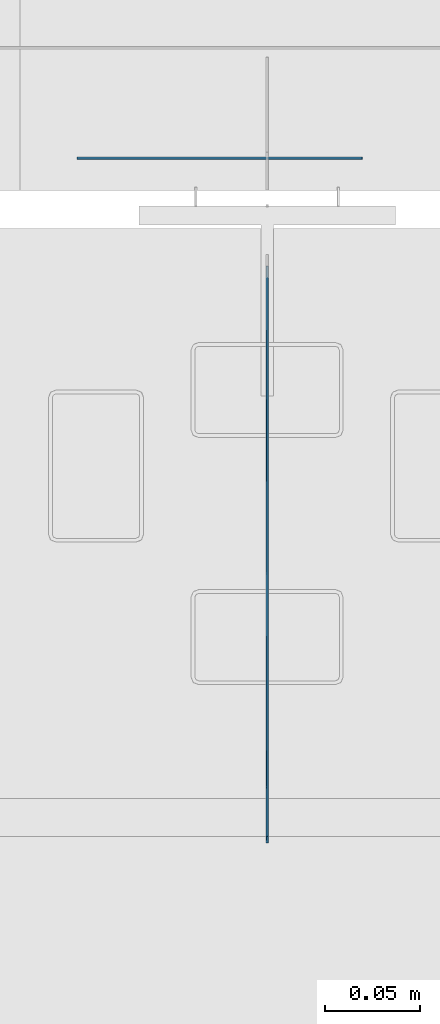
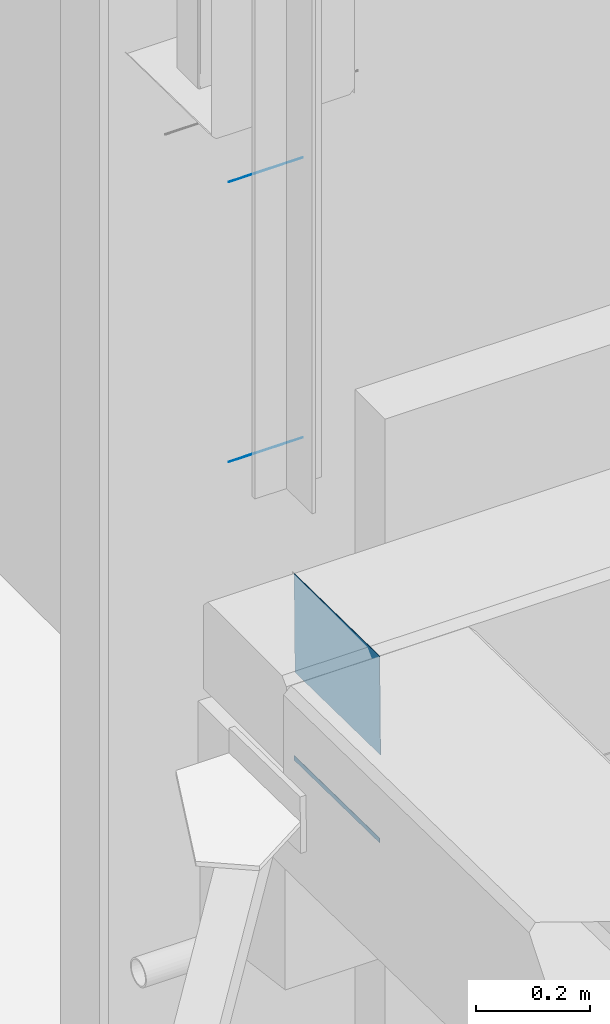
# One storey, part 29 of 186: 4 beams.
"""IFC4X3_ADD2 building model written with IfcOpenShell, lengths in millimetres."""

from ifc_helpers import new_model, si_unit, direction, frame, frame_2d, origin_with_axes, place, context, subcontext, project, spatial, polyline, rectangle, outline, extrude, boolean, material, element, save


model = new_model("IFC4X3_ADD2")

# Units and contexts
model_context = context("Model", 3, precision=1e-05, world=origin_with_axes(), true_north=direction((0.0, 1.0)))
body_context = subcontext(model_context, "Body", "Model", "MODEL_VIEW")
ifc_project = project(units=[si_unit("LENGTHUNIT", "METRE", prefix="MILLI"), si_unit("AREAUNIT", "SQUARE_METRE"), si_unit("VOLUMEUNIT", "CUBIC_METRE"), si_unit("PLANEANGLEUNIT", "RADIAN"), si_unit("TIMEUNIT", "SECOND"), si_unit("MASSUNIT", "GRAM")], contexts=[model_context])

# Site, building, storey
site_placement = place(None, origin_with_axes())
site = spatial("IfcSite", under=ifc_project, at=site_placement, Name="Site", CompositionType="ELEMENT")
building_placement = place(site_placement, origin_with_axes())
building = spatial("IfcBuilding", under=site, at=building_placement, Name="IFC Building Story")
storey_placement = place(building_placement, frame((0.0, 0.0, 4370.0), z_axis=(0.0, 0.0, 1.0), x_axis=(1.0, 0.0, 0.0)))
storey = spatial("IfcBuildingStorey", under=building, at=storey_placement, Name="ETAGE 10 (1)", Elevation=4370.0)

# Beams
ifc_material_1 = material(Name="STEEL/Accessory_invisible")
for number, where, z_axis, x_axis, name in (
    (1, (40016.189, 37.0, 3989.5), (-1.0, 0.0, 0.0), (0.0, 1.0, 0.0), "RH14"),
    (2, (40016.189, 37.0, 3389.5), (-1.0, 0.0, 0.0), (0.0, 1.0, 0.0), "RH14"),
):
    element("IfcBeam", number, at=place(storey_placement, frame(where, z_axis=z_axis, x_axis=x_axis)), inside=storey, material=ifc_material_1, Name=name, ObjectType="1*1 3", context=body_context, shape_type="SweptSolid", body=[
        extrude(rectangle(XDim=0.9999999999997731, YDim=0.9999999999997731, at=frame_2d((0.0, 5.95523630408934e-12), x_axis=(1.0, 0.0))), origin_with_axes(), (0.0, 0.0, 1.0), 150.0),
    ])
ifc_material_2 = material(Name="STEEL/Accessory_invisible 261")
beam_1_placement = place(storey_placement, frame((39965.6890216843, -171.556651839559, 3047.33518176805), z_axis=(1.0, 0.0, 0.0), x_axis=(0.0, 0.01549575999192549, 0.9998799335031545)))
element("IfcBeam", 3, at=beam_1_placement, inside=storey, material=ifc_material_2, Name="BEK4", ObjectType="210*1 3", context=body_context, shape_type="SweptSolid", body=[
    extrude(rectangle(XDim=209.999999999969, YDim=300.235929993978, at=frame_2d((0.0, 5.95523630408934e-12), x_axis=(1.0, 0.0))), origin_with_axes(), (0.0, 0.0, 1.0), 1.0),
])
beam_2_placement = place(storey_placement, frame((39965.689021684, -169.952059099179, 2757.2754909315), z_axis=(1.0, 0.0, 0.0), x_axis=(0.0, 0.01549575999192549, 0.9998799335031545)))
element("IfcBeam", 4, at=beam_2_placement, inside=storey, material=ifc_material_2, Name="BEK4", ObjectType="10*1", context=body_context, shape_type="CSG", body=[
    boolean("DIFFERENCE", boolean("DIFFERENCE", extrude(rectangle(XDim=9.999999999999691, YDim=300.036218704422, at=frame_2d((0.0, 5.95523630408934e-12), x_axis=(1.0, 0.0))), origin_with_axes(), (0.0, 0.0, 1.0), 1.0), extrude(outline(polyline([(4.999999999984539, -4.860749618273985e-05), (-4.999999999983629, -4.860749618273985e-05), (-5.0, 4.860749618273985e-05), (4.999999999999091, 4.860749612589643e-05), (4.999999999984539, -4.860749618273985e-05)])), frame((0.0, 150.0180607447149, -7.275957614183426e-12), z_axis=(0.0, 0.0, 1.0), x_axis=(1.0, 0.0, 0.0)), (0.0, 0.0, 1.0), 1.0)), extrude(outline(polyline([(-5.0, 4.860749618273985e-05), (4.999999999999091, 4.860749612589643e-05), (4.999999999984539, -4.860749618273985e-05), (-4.999999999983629, -4.860749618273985e-05), (-5.0, 4.860749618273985e-05)])), frame((0.0, -150.0180607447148, -7.275957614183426e-12), z_axis=(0.0, 0.0, 1.0), x_axis=(1.0, 0.0, 0.0)), (0.0, 0.0, 1.0), 1.0)),
])

save(model, "model.ifc")
